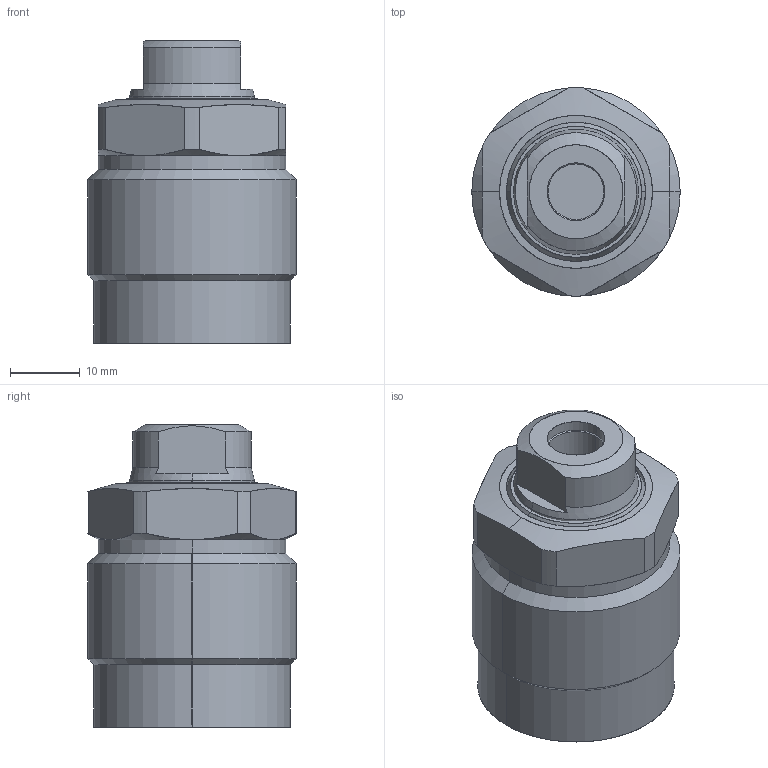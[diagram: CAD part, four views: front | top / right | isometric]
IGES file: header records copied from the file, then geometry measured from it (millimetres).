
Start section: SolidWorks IGES file using analytic representation for surfaces
Global section: file name: D:\abhilash\nijil\cylinder\Clasys1\dp converted\04\pt\0401\0102-0401.IGS; native system: SolidWorks 2010; preprocessor: SolidWorks 2010; author: nidheesh; date: 130730.113427; units: millimetre
Bounding box: 30 x 30 x 43.5 mm (x, y, z)
Surface area: 6136.7 mm2 (no closed solid volume)
Topology: 0 solids, 0 shells, 74 faces, 984 edges, 984 vertices
Faces by surface type: revolution 50, bspline 24
